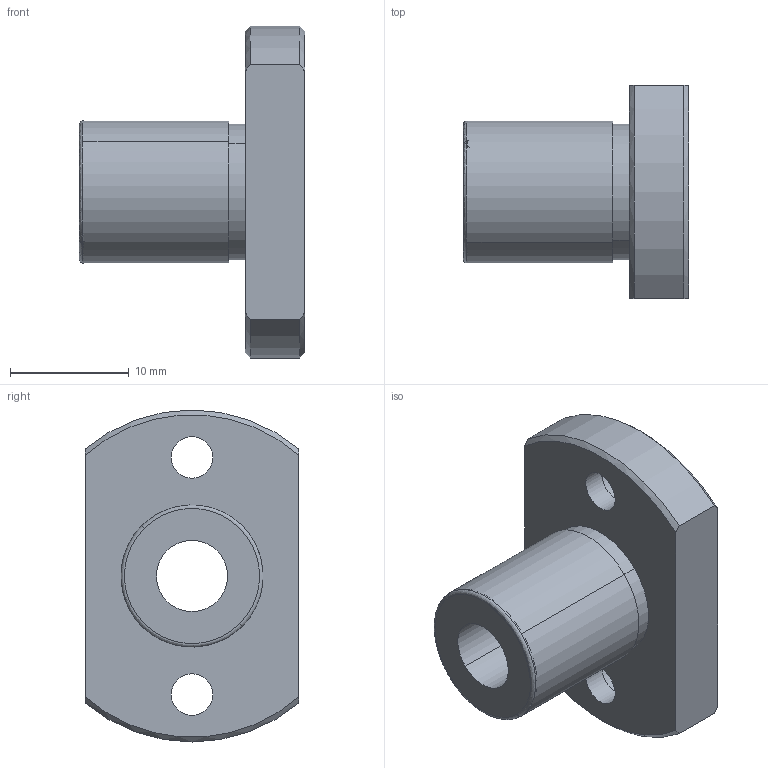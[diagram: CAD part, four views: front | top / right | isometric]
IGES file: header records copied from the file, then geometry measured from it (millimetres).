
Start section: 3D InterOp IGES (Version 21 0 1), Spatial Corp. Copyright (c) 1999-2007.
Global section: file name: NFEO-6VUU.igs; native system: Spatial Corp.; preprocessor: 3D InterOp GENERIC/IGES 3.0; author: Noname; organization: Noname; date: 20220307.120756; units: millimetre
Bounding box: 19 x 18 x 28 mm (x, y, z)
Surface area: 2385.4 mm2 (no closed solid volume)
Topology: 0 solids, 0 shells, 30 faces, 150 edges, 148 vertices
Faces by surface type: revolution 22, extrusion 8
